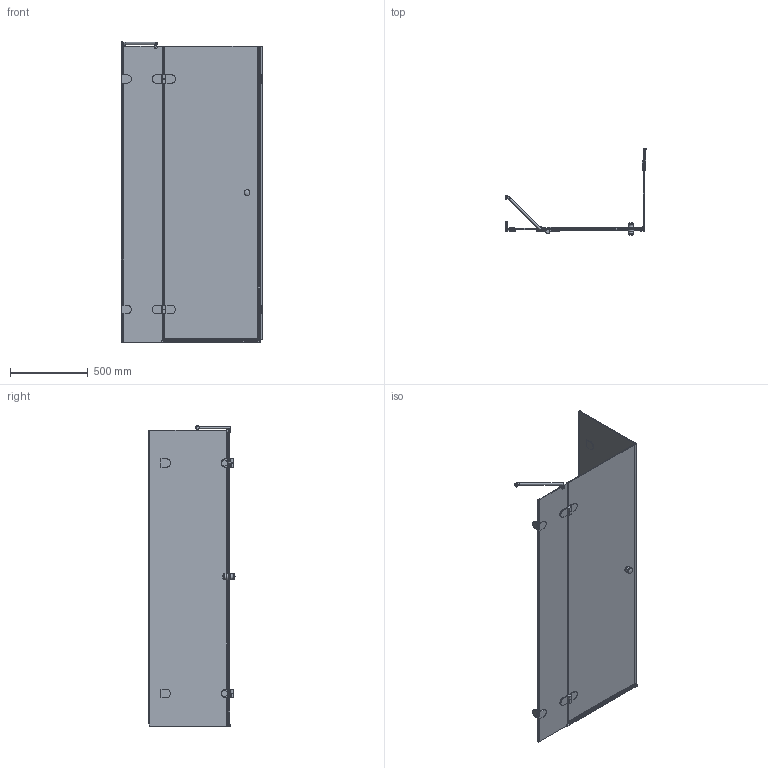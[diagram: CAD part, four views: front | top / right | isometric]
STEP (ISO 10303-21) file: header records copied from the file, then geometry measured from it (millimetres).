
FILE_DESCRIPTION(/* description */ (''),/* implementation_level */ '2;1');
FILE_NAME(/* name */ 'D:\4\LUX SQUARE GK-003GC-2522\LUX SQUARE GK-003GC-2522 левая модель\LUX SQUARE GK-003GC-2522 ЛЕВАЯ-3D.stp',/* time_stamp */ '2017-05-26T15:33:34+03:00',/* author */ ('ChechurovS'),/* organization */ (''),/* preprocessor_version */ 'ST-DEVELOPER v15.2',/* originating_system */ 'Autodesk Inventor 2014',/* authorisation */ '');
FILE_SCHEMA (('CONFIG_CONTROL_DESIGN'));
Length unit declared in the file: millimetre
Products named in the file (1): LUX SQUARE GK-003GC-2522 ЛЕВАЯ-
3D
Bounding box: 905.58 x 554.36 x 1931.5 mm (x, y, z)
Volume: 16887667.5 mm3; surface area: 5790068.7 mm2
Topology: 4 solids, 6 shells, 633 faces, 1717 edges, 1129 vertices
Faces by surface type: plane 409, cylinder 188, torus 18, sphere 8, bspline 8, cone 2
Full cylindrical faces by diameter (mm): 12 x1, 15 x1, 20 x2, 26 x1, 30 x2, 35 x2, 38 x4, 40 x2
Entity records: 21163 total; most frequent: CARTESIAN_POINT 4422, ORIENTED_EDGE 3356, DIRECTION 3289, EDGE_CURVE 1678, LINE 1213, VECTOR 1213, VERTEX_POINT 1117, AXIS2_PLACEMENT_3D 1038
